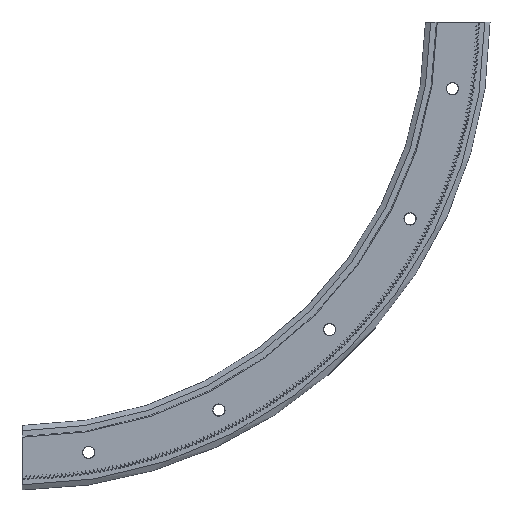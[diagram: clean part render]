
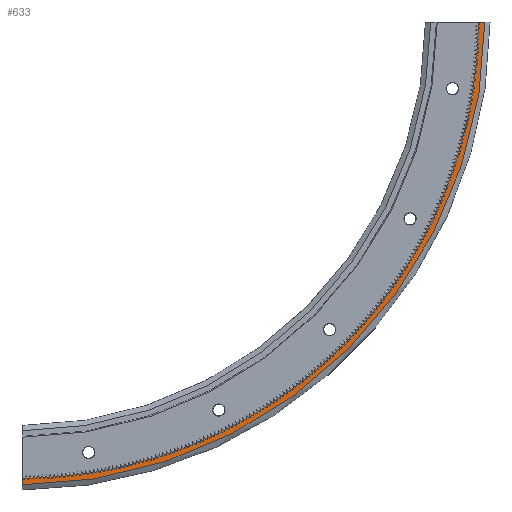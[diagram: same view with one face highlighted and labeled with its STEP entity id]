
A CAD part, front view. The second image highlights one B-rep face of the part: STEP entity #633.
In plain terms, the highlighted planar face has unit normal (0, -1, 0).
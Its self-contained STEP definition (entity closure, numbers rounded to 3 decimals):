
#633 = ADVANCED_FACE( '', ( #2313 ), #2314, .T. );
#2313 = FACE_OUTER_BOUND( '', #4575, .T. );
#2314 = PLANE( '', #4576 );
#4575 = EDGE_LOOP( '', ( #10716, #10717, #10718, #10719 ) );
#4576 = AXIS2_PLACEMENT_3D( '', #10720, #10721, #10722 );
#10716 = ORIENTED_EDGE( '', *, *, #17343, .T. );
#10717 = ORIENTED_EDGE( '', *, *, #17344, .T. );
#10718 = ORIENTED_EDGE( '', *, *, #17345, .F. );
#10719 = ORIENTED_EDGE( '', *, *, #14982, .T. );
#10720 = CARTESIAN_POINT( '', ( 0., 15., -537.95 ) );
#10721 = DIRECTION( '', ( 0., -1., 0. ) );
#10722 = DIRECTION( '', ( 0., 0., -1. ) );
#14982 = EDGE_CURVE( '', #17953, #17951, #17954, .T. );
#17343 = EDGE_CURVE( '', #17951, #22117, #22119, .T. );
#17344 = EDGE_CURVE( '', #22117, #22120, #22121, .T. );
#17345 = EDGE_CURVE( '', #17953, #22120, #22122, .T. );
#17951 = VERTEX_POINT( '', #22796 );
#17953 = VERTEX_POINT( '', #22801 );
#17954 = LINE( '', #22802, #22803 );
#22117 = VERTEX_POINT( '', #29674 );
#22119 = CIRCLE( '', #29679, 548.443 );
#22120 = VERTEX_POINT( '', #29680 );
#22121 = LINE( '', #29681, #29682 );
#22122 = CIRCLE( '', #29683, 537.95 );
#22796 = CARTESIAN_POINT( '', ( 2., 15., -548.44 ) );
#22801 = CARTESIAN_POINT( '', ( 2., 15., -537.946 ) );
#22802 = CARTESIAN_POINT( '', ( 2., 15., -537.95 ) );
#22803 = VECTOR( '', #30293, 1000. );
#29674 = CARTESIAN_POINT( '', ( 548.44, 15., -2. ) );
#29679 = AXIS2_PLACEMENT_3D( '', #33054, #33055, #33056 );
#29680 = CARTESIAN_POINT( '', ( 537.946, 15., -2. ) );
#29681 = CARTESIAN_POINT( '', ( 0., 15., -2. ) );
#29682 = VECTOR( '', #33057, 1000. );
#29683 = AXIS2_PLACEMENT_3D( '', #33058, #33059, #33060 );
#30293 = DIRECTION( '', ( 0., 0., -1. ) );
#33054 = CARTESIAN_POINT( '', ( 0., 15., 0. ) );
#33055 = DIRECTION( '', ( 0., -1., 0. ) );
#33056 = DIRECTION( '', ( 0., 0., -1. ) );
#33057 = DIRECTION( '', ( -1., 0., 0. ) );
#33058 = CARTESIAN_POINT( '', ( 0., 15., 0. ) );
#33059 = DIRECTION( '', ( 0., -1., 0. ) );
#33060 = DIRECTION( '', ( 0., 0., -1. ) );
